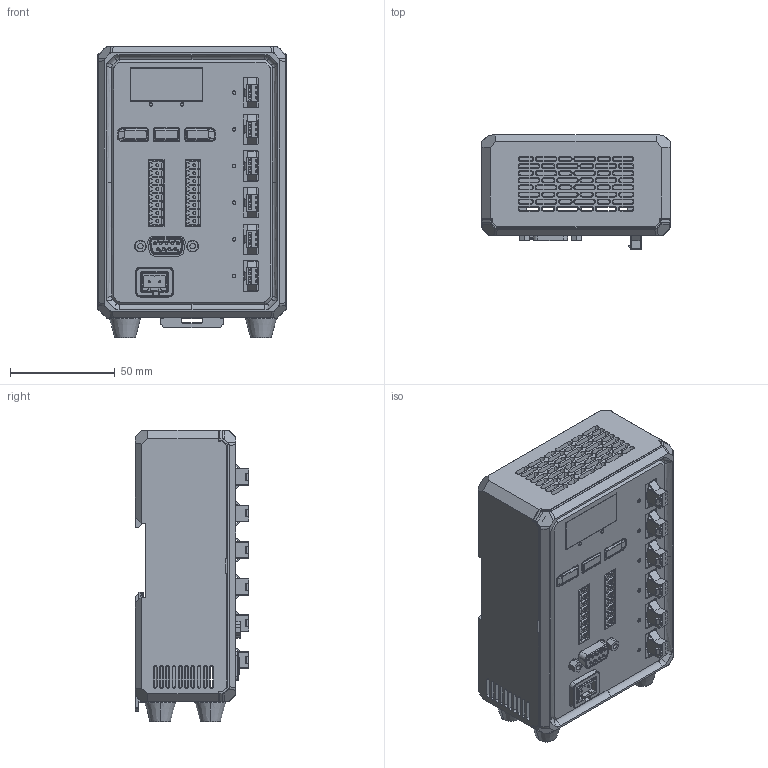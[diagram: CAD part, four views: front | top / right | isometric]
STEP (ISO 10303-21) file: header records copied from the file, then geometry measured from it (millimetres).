
FILE_DESCRIPTION((''),'2;1');
FILE_NAME('LS-LE200-90W24-6D','2024-04-02T15:22:33',('LumaSpec Vision'),('LumaSpec Vision'),'CREO PARAMETRIC BY PTC INC, 2020044','CREO PARAMETRIC BY PTC INC, 2020044','');
FILE_SCHEMA(('CONFIG_CONTROL_DESIGN'));
Products named in the file (1): DE-12-001510_78_1
Bounding box: 90.08 x 54.35 x 139.54 mm (x, y, z)
Volume: 436399.5 mm3; surface area: 96877.6 mm2
Topology: 1 solids, 12 shells, 4310 faces, 11599 edges, 7592 vertices
Faces by surface type: plane 2850, cylinder 741, cone 379, bspline 186, torus 101, extrusion 46, sphere 7
Entity records: 151080 total; most frequent: CARTESIAN_POINT 44029, ORIENTED_EDGE 23178, DIRECTION 20615, EDGE_CURVE 11589, VECTOR 8371, LINE 8325, VERTEX_POINT 7592, AXIS2_PLACEMENT_3D 6122
